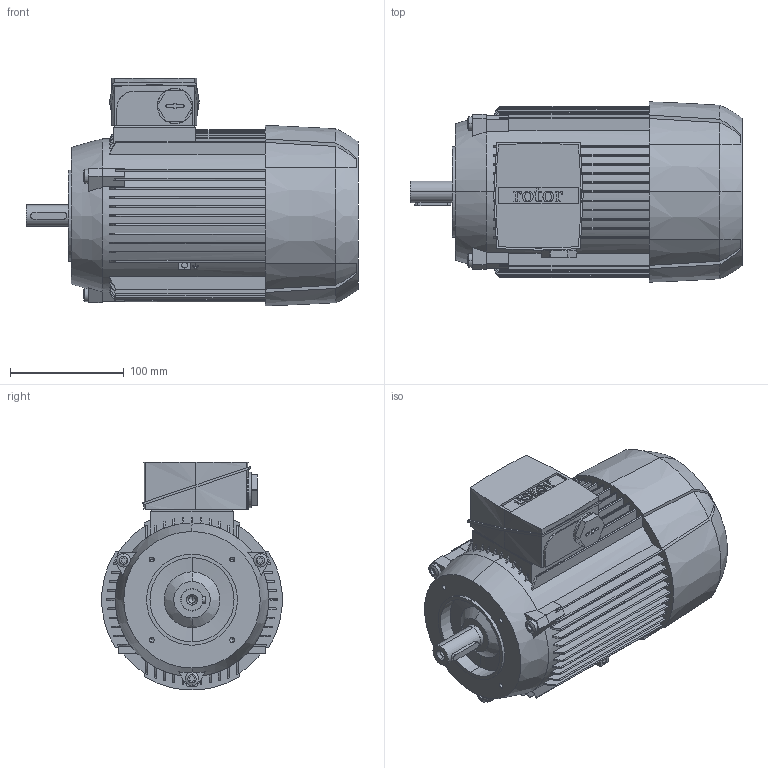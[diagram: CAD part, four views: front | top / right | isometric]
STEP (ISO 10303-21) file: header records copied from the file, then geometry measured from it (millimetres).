
FILE_DESCRIPTION (( 'STEP AP214' ), '1' );
FILE_NAME ('6RN80M06E13 IM3641-A.STEP', '2017-03-13T12:49:32', ( 'rotor' ), ( 'Hewlett-Packard Company' ), 'SwSTEP 2.0', 'SolidWorks 2015', '' );
FILE_SCHEMA (( 'AUTOMOTIVE_DESIGN' ));
Length unit declared in the file: millimetre
Products named in the file (1): 6RN80M06E13 IM3641-A
Bounding box: 292 x 158.5 x 200.25 mm (x, y, z)
Volume: 4302546.8 mm3; surface area: 264868.1 mm2
Topology: 1 solids, 1 shells, 593 faces, 1649 edges, 1082 vertices
Faces by surface type: plane 340, cylinder 121, bspline 101, cone 31
Entity records: 27616 total; most frequent: CARTESIAN_POINT 7455, ORIENTED_EDGE 3278, DIRECTION 2717, EDGE_CURVE 1639, VERTEX_POINT 1082, VECTOR 949, LINE 949, AXIS2_PLACEMENT_3D 884
